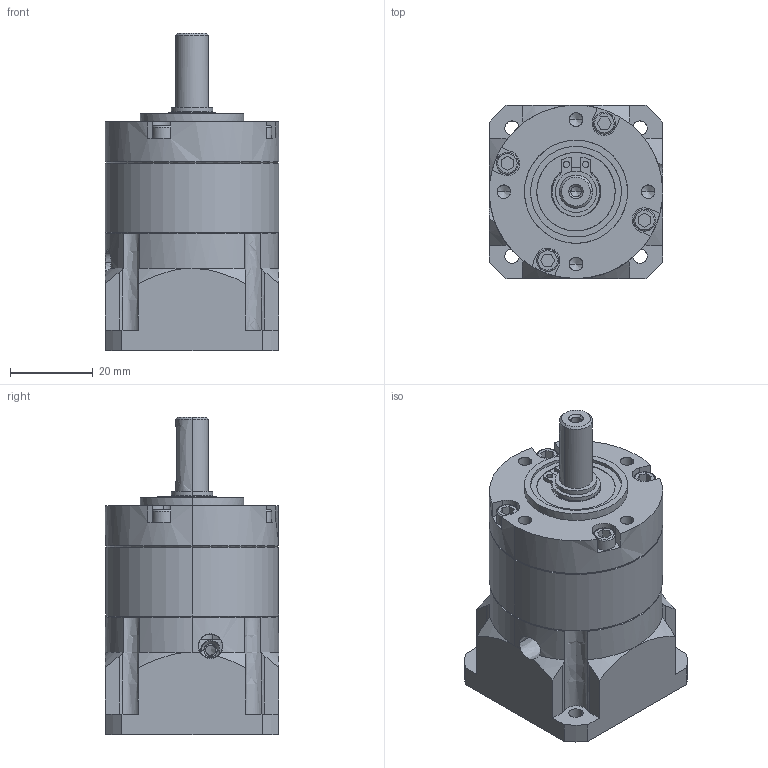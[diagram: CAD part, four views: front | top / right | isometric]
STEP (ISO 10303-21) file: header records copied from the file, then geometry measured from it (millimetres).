
FILE_DESCRIPTION (( 'STEP AP203' ), '1' );
FILE_NAME ('PLE42-L1SW.STEP', '2022-04-29T00:55:46', ( '' ), ( '' ), 'SwSTEP 2.0', 'SolidWorks 2020', '' );
FILE_SCHEMA (( 'CONFIG_CONTROL_DESIGN' ));
Length unit declared in the file: millimetre
Products named in the file (8): 输入轴.IGS; PLE42怀堤傷.IGS; 朴10縐銅.IGS; PLE42-L1SW; 42输入法兰加长.IGS; PLE42-L1SW.IGS; M3囀鞠褒蹟佪芛.IGS; 6801.IGS
Assembly tree (14 placements, depth 3):
  PLE42-L1SW
    PLE42-L1SW.IGS
      PLE42怀堤傷.IGS
      42输入法兰加长.IGS
      输入轴.IGS
      朴10縐銅.IGS
      M3囀鞠褒蹟佪芛.IGS  x8
      6801.IGS
Bounding box: 42 x 42 x 77 mm (x, y, z)
Volume: 71799.1 mm3; surface area: 22851.7 mm2
Topology: 13 solids, 13 shells, 374 faces, 913 edges, 588 vertices
Faces by surface type: bspline 374
Entity records: 14183 total; most frequent: CARTESIAN_POINT 8912, ORIENTED_EDGE 1414, EDGE_CURVE 707, B_SPLINE_CURVE_WITH_KNOTS 538, VERTEX_POINT 462, EDGE_LOOP 345, FACE_OUTER_BOUND 283, ADVANCED_FACE 283
